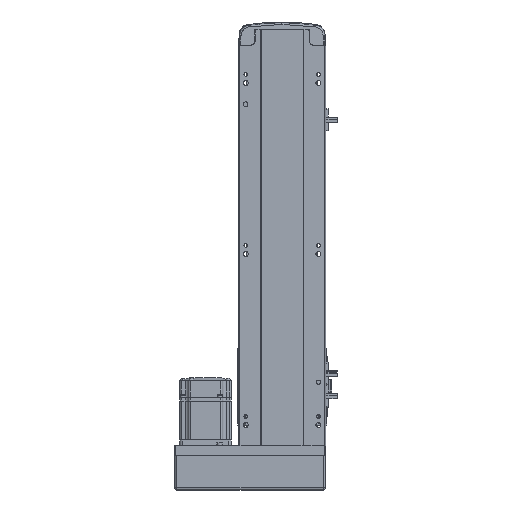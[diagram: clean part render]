
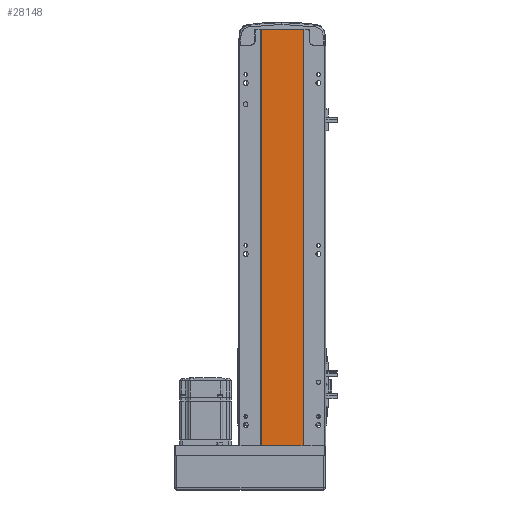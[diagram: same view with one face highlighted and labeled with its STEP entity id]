
A CAD part, front view. The second image highlights one B-rep face of the part: STEP entity #28148.
In plain terms, the highlighted planar face has unit normal (0, -1, 0).
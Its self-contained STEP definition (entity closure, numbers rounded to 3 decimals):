
#2046 = CARTESIAN_POINT ( 'NONE',  ( -24.5, 2., 487. ) ) ;
#8619 = VECTOR ( 'NONE', #39867, 1000. ) ;
#9271 = CARTESIAN_POINT ( 'NONE',  ( 24.5, 2., 487. ) ) ;
#13917 = EDGE_CURVE ( 'NONE', #58383, #20434, #51907, .T. ) ;
#14612 = VECTOR ( 'NONE', #52013, 1000. ) ;
#16355 = VECTOR ( 'NONE', #33623, 1000. ) ;
#16571 = ORIENTED_EDGE ( 'NONE', *, *, #38910, .T. ) ;
#16706 = EDGE_CURVE ( 'NONE', #40597, #36313, #50881, .T. ) ;
#19960 = PLANE ( 'NONE',  #54954 ) ;
#20146 = CARTESIAN_POINT ( 'NONE',  ( -24.5, 2., 0. ) ) ;
#20434 = VERTEX_POINT ( 'NONE', #20146 ) ;
#20663 = ORIENTED_EDGE ( 'NONE', *, *, #49046, .F. ) ;
#20733 = CARTESIAN_POINT ( 'NONE',  ( 0., 2., 487. ) ) ;
#21268 = VECTOR ( 'NONE', #47114, 1000. ) ;
#23331 = CARTESIAN_POINT ( 'NONE',  ( -24.5, 2., 487. ) ) ;
#25076 = CARTESIAN_POINT ( 'NONE',  ( 24.5, 2., 487. ) ) ;
#28148 = ADVANCED_FACE ( 'NONE', ( #48411 ), #19960, .F. ) ;
#33623 = DIRECTION ( 'NONE',  ( 1., 0., 0. ) ) ;
#35306 = ORIENTED_EDGE ( 'NONE', *, *, #13917, .T. ) ;
#36313 = VERTEX_POINT ( 'NONE', #38224 ) ;
#38224 = CARTESIAN_POINT ( 'NONE',  ( 24.5, 2., 0. ) ) ;
#38910 = EDGE_CURVE ( 'NONE', #20434, #36313, #40292, .T. ) ;
#39867 = DIRECTION ( 'NONE',  ( 1., 0., 0. ) ) ;
#40292 = LINE ( 'NONE', #42472, #16355 ) ;
#40597 = VERTEX_POINT ( 'NONE', #9271 ) ;
#42472 = CARTESIAN_POINT ( 'NONE',  ( 0., 2., 0. ) ) ;
#47114 = DIRECTION ( 'NONE',  ( 0., 0., -1. ) ) ;
#47289 = DIRECTION ( 'NONE',  ( 0., 1., 0. ) ) ;
#48341 = ORIENTED_EDGE ( 'NONE', *, *, #16706, .F. ) ;
#48411 = FACE_OUTER_BOUND ( 'NONE', #52757, .T. ) ;
#49046 = EDGE_CURVE ( 'NONE', #58383, #40597, #50861, .T. ) ;
#50861 = LINE ( 'NONE', #57749, #8619 ) ;
#50881 = LINE ( 'NONE', #25076, #21268 ) ;
#51907 = LINE ( 'NONE', #2046, #14612 ) ;
#52013 = DIRECTION ( 'NONE',  ( 0., 0., -1. ) ) ;
#52243 = DIRECTION ( 'NONE',  ( 0., 0., 1. ) ) ;
#52757 = EDGE_LOOP ( 'NONE', ( #16571, #48341, #20663, #35306 ) ) ;
#54954 = AXIS2_PLACEMENT_3D ( 'NONE', #20733, #47289, #52243 ) ;
#57749 = CARTESIAN_POINT ( 'NONE',  ( -24.5, 2., 487. ) ) ;
#58383 = VERTEX_POINT ( 'NONE', #23331 ) ;
